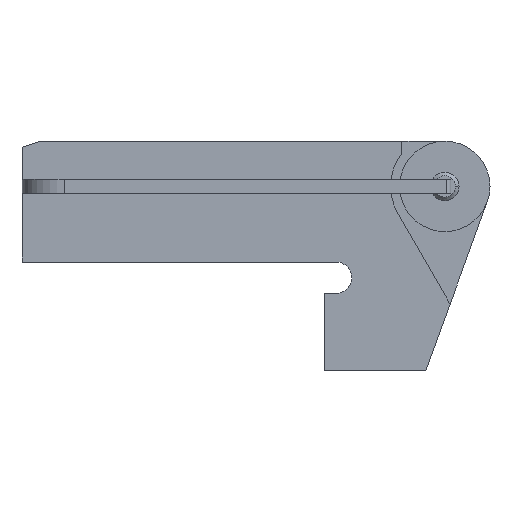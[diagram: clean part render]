
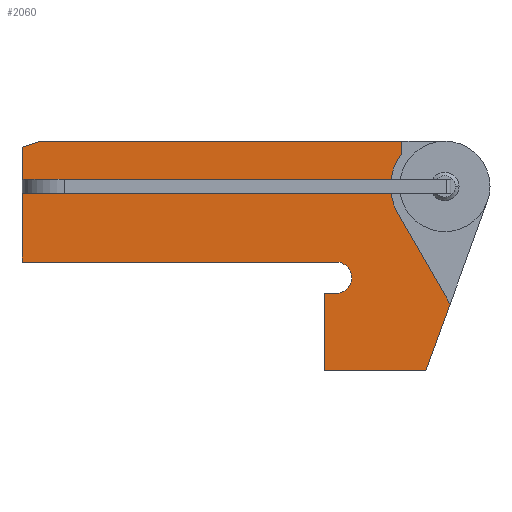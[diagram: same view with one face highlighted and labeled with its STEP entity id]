
A CAD part, left-side view. The second image highlights one B-rep face of the part: STEP entity #2060.
In plain terms, the highlighted planar face has unit normal (-1, 0, 0).
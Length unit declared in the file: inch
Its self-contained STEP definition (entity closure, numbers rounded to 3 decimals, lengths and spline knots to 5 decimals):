
#126=DIRECTION('',(0.,0.,1.));
#127=VECTOR('',#126,0.5675);
#128=CARTESIAN_POINT('',(2.9375,3.5,-0.626));
#129=LINE('',#128,#127);
#178=DIRECTION('',(0.,0.,1.));
#179=VECTOR('',#178,0.2655);
#180=CARTESIAN_POINT('',(2.9375,3.5,0.0585));
#181=LINE('',#180,#179);
#186=DIRECTION('',(0.,0.,1.));
#187=VECTOR('',#186,0.117);
#188=CARTESIAN_POINT('',(2.9375,0.9,-0.0585));
#189=LINE('',#188,#187);
#190=DIRECTION('',(0.,1.,0.));
#191=VECTOR('',#190,2.6);
#192=CARTESIAN_POINT('',(2.9375,0.9,0.0585));
#193=LINE('',#192,#191);
#194=DIRECTION('',(0.,-0.949,0.316));
#195=VECTOR('',#194,0.15811);
#196=CARTESIAN_POINT('',(2.9375,3.5,0.324));
#197=LINE('',#196,#195);
#198=CARTESIAN_POINT('',(2.9375,0.,0.));
#199=DIRECTION('',(-1.,0.,0.));
#200=DIRECTION('',(0.,0.792,0.61));
#201=AXIS2_PLACEMENT_3D('',#198,#199,#200);
#203=CARTESIAN_POINT('',(2.9375,0.,0.));
#204=DIRECTION('',(-1.,0.,0.));
#205=DIRECTION('',(0.,1.,0.));
#206=AXIS2_PLACEMENT_3D('',#203,#204,#205);
#208=DIRECTION('',(0.,-0.5,-0.866));
#209=VECTOR('',#208,0.86498);
#210=CARTESIAN_POINT('',(2.9375,0.38885,-0.2245));
#211=LINE('',#210,#209);
#212=DIRECTION('',(0.,0.342,-0.94));
#213=VECTOR('',#212,0.58786);
#214=CARTESIAN_POINT('',(2.9375,-0.04364,-0.97359));
#215=LINE('',#214,#213);
#216=CARTESIAN_POINT('',(2.9375,0.9,-0.756));
#217=DIRECTION('',(-1.,0.,0.));
#218=DIRECTION('',(0.,0.,-1.));
#219=AXIS2_PLACEMENT_3D('',#216,#217,#218);
#221=CARTESIAN_POINT('',(2.9375,0.9,-0.756));
#222=DIRECTION('',(-1.,0.,0.));
#223=DIRECTION('',(0.,-1.,0.));
#224=AXIS2_PLACEMENT_3D('',#221,#222,#223);
#226=DIRECTION('',(0.,1.,0.));
#227=VECTOR('',#226,2.6);
#228=CARTESIAN_POINT('',(2.9375,0.9,-0.0585));
#229=LINE('',#228,#227);
#542=DIRECTION('',(0.,1.,0.));
#543=VECTOR('',#542,2.6);
#544=CARTESIAN_POINT('',(2.9375,0.9,-0.626));
#545=LINE('',#544,#543);
#572=DIRECTION('',(0.,1.,0.));
#573=VECTOR('',#572,0.1);
#574=CARTESIAN_POINT('',(2.9375,0.9,-0.886));
#575=LINE('',#574,#573);
#584=DIRECTION('',(0.,0.,1.));
#585=VECTOR('',#584,0.64);
#586=CARTESIAN_POINT('',(2.9375,1.,-1.526));
#587=LINE('',#586,#585);
#592=DIRECTION('',(0.,1.,0.));
#593=VECTOR('',#592,0.84258);
#594=CARTESIAN_POINT('',(2.9375,0.15742,-1.526));
#595=LINE('',#594,#593);
#652=DIRECTION('',(0.,-1.,0.));
#653=VECTOR('',#652,2.9943);
#654=CARTESIAN_POINT('',(2.9375,3.35,0.374));
#655=LINE('',#654,#653);
#726=DIRECTION('',(0.,0.,-1.));
#727=VECTOR('',#726,0.1);
#728=CARTESIAN_POINT('',(2.9375,0.3557,0.374));
#729=LINE('',#728,#727);
#1518=CARTESIAN_POINT('',(2.9375,1.,-1.526));
#1519=CARTESIAN_POINT('',(2.9375,1.,-0.886));
#1520=VERTEX_POINT('',#1518);
#1521=VERTEX_POINT('',#1519);
#1522=CARTESIAN_POINT('',(2.9375,0.15742,-1.526));
#1523=VERTEX_POINT('',#1522);
#1524=CARTESIAN_POINT('',(2.9375,-0.04364,-0.97359));
#1525=VERTEX_POINT('',#1524);
#1526=CARTESIAN_POINT('',(2.9375,0.38885,-0.2245));
#1527=VERTEX_POINT('',#1526);
#1528=CARTESIAN_POINT('',(2.9375,0.449,0.));
#1529=VERTEX_POINT('',#1528);
#1530=CARTESIAN_POINT('',(2.9375,0.3557,0.274));
#1531=VERTEX_POINT('',#1530);
#1532=CARTESIAN_POINT('',(2.9375,0.3557,0.374));
#1533=VERTEX_POINT('',#1532);
#1534=CARTESIAN_POINT('',(2.9375,3.35,0.374));
#1535=VERTEX_POINT('',#1534);
#1536=CARTESIAN_POINT('',(2.9375,3.5,0.324));
#1537=VERTEX_POINT('',#1536);
#1538=CARTESIAN_POINT('',(2.9375,0.9,-0.626));
#1539=CARTESIAN_POINT('',(2.9375,3.5,-0.626));
#1540=VERTEX_POINT('',#1538);
#1541=VERTEX_POINT('',#1539);
#1542=CARTESIAN_POINT('',(2.9375,0.77,-0.756));
#1543=VERTEX_POINT('',#1542);
#1544=CARTESIAN_POINT('',(2.9375,0.9,-0.886));
#1545=VERTEX_POINT('',#1544);
#1790=CARTESIAN_POINT('',(2.9375,0.9,-0.0585));
#1791=CARTESIAN_POINT('',(2.9375,0.9,0.0585));
#1792=VERTEX_POINT('',#1790);
#1793=VERTEX_POINT('',#1791);
#1794=CARTESIAN_POINT('',(2.9375,3.5,-0.0585));
#1795=VERTEX_POINT('',#1794);
#1796=CARTESIAN_POINT('',(2.9375,3.5,0.0585));
#1797=VERTEX_POINT('',#1796);
#2020=CARTESIAN_POINT('',(2.9375,1.72818,-0.576));
#2021=DIRECTION('',(1.,0.,0.));
#2022=DIRECTION('',(0.,1.,0.));
#2023=AXIS2_PLACEMENT_3D('',#2020,#2021,#2022);
#2024=PLANE('',#2023);
#2026=ORIENTED_EDGE('',*,*,#2025,.T.);
#2028=ORIENTED_EDGE('',*,*,#2027,.T.);
#2029=ORIENTED_EDGE('',*,*,#2011,.T.);
#2031=ORIENTED_EDGE('',*,*,#2030,.T.);
#2033=ORIENTED_EDGE('',*,*,#2032,.T.);
#2035=ORIENTED_EDGE('',*,*,#2034,.T.);
#2037=ORIENTED_EDGE('',*,*,#2036,.T.);
#2039=ORIENTED_EDGE('',*,*,#2038,.T.);
#2041=ORIENTED_EDGE('',*,*,#2040,.T.);
#2043=ORIENTED_EDGE('',*,*,#2042,.T.);
#2045=ORIENTED_EDGE('',*,*,#2044,.T.);
#2047=ORIENTED_EDGE('',*,*,#2046,.T.);
#2049=ORIENTED_EDGE('',*,*,#2048,.F.);
#2051=ORIENTED_EDGE('',*,*,#2050,.T.);
#2053=ORIENTED_EDGE('',*,*,#2052,.T.);
#2055=ORIENTED_EDGE('',*,*,#2054,.T.);
#2056=ORIENTED_EDGE('',*,*,#1983,.T.);
#2057=ORIENTED_EDGE('',*,*,#1944,.F.);
#2058=EDGE_LOOP('',(#2026,#2028,#2029,#2031,#2033,#2035,#2037,#2039,#2041,#2043,
#2045,#2047,#2049,#2051,#2053,#2055,#2056,#2057));
#2059=FACE_OUTER_BOUND('',#2058,.F.);
#202=CIRCLE('',#201,0.449);
#207=CIRCLE('',#206,0.449);
#220=CIRCLE('',#219,0.13);
#225=CIRCLE('',#224,0.13);
#1944=EDGE_CURVE('',#1792,#1795,#229,.T.);
#1983=EDGE_CURVE('',#1541,#1795,#129,.T.);
#2011=EDGE_CURVE('',#1797,#1537,#181,.T.);
#2025=EDGE_CURVE('',#1792,#1793,#189,.T.);
#2027=EDGE_CURVE('',#1793,#1797,#193,.T.);
#2030=EDGE_CURVE('',#1537,#1535,#197,.T.);
#2032=EDGE_CURVE('',#1535,#1533,#655,.T.);
#2034=EDGE_CURVE('',#1533,#1531,#729,.T.);
#2036=EDGE_CURVE('',#1531,#1529,#202,.T.);
#2038=EDGE_CURVE('',#1529,#1527,#207,.T.);
#2040=EDGE_CURVE('',#1527,#1525,#211,.T.);
#2042=EDGE_CURVE('',#1525,#1523,#215,.T.);
#2044=EDGE_CURVE('',#1523,#1520,#595,.T.);
#2046=EDGE_CURVE('',#1520,#1521,#587,.T.);
#2048=EDGE_CURVE('',#1545,#1521,#575,.T.);
#2050=EDGE_CURVE('',#1545,#1543,#220,.T.);
#2052=EDGE_CURVE('',#1543,#1540,#225,.T.);
#2054=EDGE_CURVE('',#1540,#1541,#545,.T.);
#2060=ADVANCED_FACE('',(#2059),#2024,.F.);
